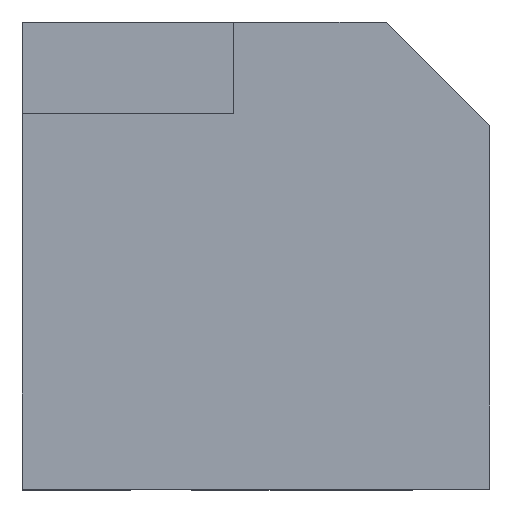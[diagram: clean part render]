
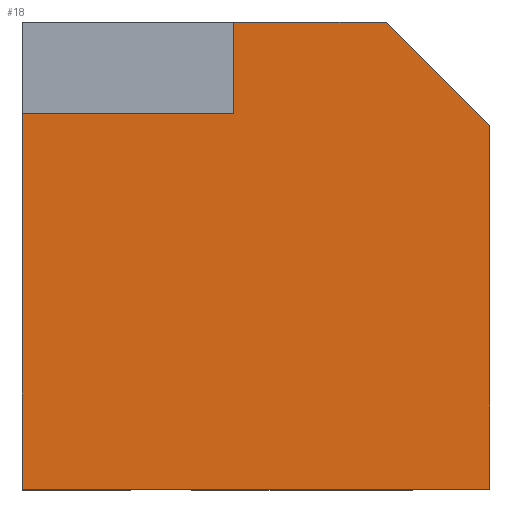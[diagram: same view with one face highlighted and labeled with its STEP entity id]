
A CAD part, top view. The second image highlights one B-rep face of the part: STEP entity #18.
In plain terms, the highlighted planar face has unit normal (0, 0, 1).
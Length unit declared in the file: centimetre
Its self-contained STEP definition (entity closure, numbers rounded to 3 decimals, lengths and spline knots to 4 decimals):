
#18 = ADVANCED_FACE ( 'NONE', ( #322 ), #1092, .T. ) ;
#21 = EDGE_CURVE ( 'NONE', #1559, #988, #1598, .T. ) ;
#31 = CARTESIAN_POINT ( 'NONE',  ( 0., 1000., 1000. ) ) ;
#103 = DIRECTION ( 'NONE',  ( 1., 0., 0. ) ) ;
#117 = VECTOR ( 'NONE', #933, 100. ) ;
#133 = VERTEX_POINT ( 'NONE', #237 ) ;
#147 = DIRECTION ( 'NONE',  ( 0., 1., 0. ) ) ;
#164 = CARTESIAN_POINT ( 'NONE',  ( 889.3547, 889.3547, 1000. ) ) ;
#237 = CARTESIAN_POINT ( 'NONE',  ( 1000., 0., 1000. ) ) ;
#246 = CARTESIAN_POINT ( 'NONE',  ( 0., 804.2338, 1000. ) ) ;
#248 = EDGE_CURVE ( 'NONE', #951, #133, #385, .T. ) ;
#266 = CARTESIAN_POINT ( 'NONE',  ( 778.7094, 1000., 1000. ) ) ;
#314 = CARTESIAN_POINT ( 'NONE',  ( 0., 0., 1000. ) ) ;
#316 = VECTOR ( 'NONE', #1080, 100. ) ;
#322 = FACE_OUTER_BOUND ( 'NONE', #1638, .T. ) ;
#363 = CARTESIAN_POINT ( 'NONE',  ( 0., 0., 1000. ) ) ;
#368 = VECTOR ( 'NONE', #373, 100. ) ;
#373 = DIRECTION ( 'NONE',  ( -1., 0., 0. ) ) ;
#385 = LINE ( 'NONE', #363, #1524 ) ;
#401 = CARTESIAN_POINT ( 'NONE',  ( 451.8915, 804.2338, 1000. ) ) ;
#444 = EDGE_CURVE ( 'NONE', #777, #951, #1166, .T. ) ;
#457 = DIRECTION ( 'NONE',  ( 0., 0., 1. ) ) ;
#487 = ORIENTED_EDGE ( 'NONE', *, *, #444, .T. ) ;
#602 = ORIENTED_EDGE ( 'NONE', *, *, #797, .T. ) ;
#627 = VECTOR ( 'NONE', #1574, 100. ) ;
#658 = LINE ( 'NONE', #164, #627 ) ;
#690 = CARTESIAN_POINT ( 'NONE',  ( 451.8915, 804.2338, 1000. ) ) ;
#736 = ORIENTED_EDGE ( 'NONE', *, *, #1103, .T. ) ;
#757 = CARTESIAN_POINT ( 'NONE',  ( 0., 1000., 1000. ) ) ;
#767 = CARTESIAN_POINT ( 'NONE',  ( 1000., 1000., 1000. ) ) ;
#777 = VERTEX_POINT ( 'NONE', #246 ) ;
#797 = EDGE_CURVE ( 'NONE', #1640, #988, #1000, .T. ) ;
#817 = ORIENTED_EDGE ( 'NONE', *, *, #248, .T. ) ;
#933 = DIRECTION ( 'NONE',  ( 0., 1., 0. ) ) ;
#951 = VERTEX_POINT ( 'NONE', #1637 ) ;
#974 = ORIENTED_EDGE ( 'NONE', *, *, #1579, .T. ) ;
#988 = VERTEX_POINT ( 'NONE', #1546 ) ;
#1000 = LINE ( 'NONE', #757, #368 ) ;
#1001 = LINE ( 'NONE', #767, #1578 ) ;
#1080 = DIRECTION ( 'NONE',  ( 0., -1., 0. ) ) ;
#1092 = PLANE ( 'NONE',  #1497 ) ;
#1103 = EDGE_CURVE ( 'NONE', #1327, #1640, #658, .T. ) ;
#1116 = VECTOR ( 'NONE', #1528, 100. ) ;
#1152 = CARTESIAN_POINT ( 'NONE',  ( 451.8915, 804.2338, 1000. ) ) ;
#1166 = LINE ( 'NONE', #31, #316 ) ;
#1218 = ORIENTED_EDGE ( 'NONE', *, *, #1544, .T. ) ;
#1280 = LINE ( 'NONE', #1152, #1116 ) ;
#1301 = ORIENTED_EDGE ( 'NONE', *, *, #21, .F. ) ;
#1302 = CARTESIAN_POINT ( 'NONE',  ( 1000., 778.7094, 1000. ) ) ;
#1327 = VERTEX_POINT ( 'NONE', #1302 ) ;
#1451 = DIRECTION ( 'NONE',  ( 1., 0., 0. ) ) ;
#1497 = AXIS2_PLACEMENT_3D ( 'NONE', #314, #457, #1451 ) ;
#1524 = VECTOR ( 'NONE', #103, 100. ) ;
#1528 = DIRECTION ( 'NONE',  ( -1., 0., 0. ) ) ;
#1544 = EDGE_CURVE ( 'NONE', #133, #1327, #1001, .T. ) ;
#1546 = CARTESIAN_POINT ( 'NONE',  ( 451.8915, 1000., 1000. ) ) ;
#1559 = VERTEX_POINT ( 'NONE', #401 ) ;
#1574 = DIRECTION ( 'NONE',  ( -0.707, 0.707, 0. ) ) ;
#1578 = VECTOR ( 'NONE', #147, 100. ) ;
#1579 = EDGE_CURVE ( 'NONE', #1559, #777, #1280, .T. ) ;
#1598 = LINE ( 'NONE', #690, #117 ) ;
#1637 = CARTESIAN_POINT ( 'NONE',  ( 0., 0., 1000. ) ) ;
#1638 = EDGE_LOOP ( 'NONE', ( #974, #487, #817, #1218, #736, #602, #1301 ) ) ;
#1640 = VERTEX_POINT ( 'NONE', #266 ) ;
